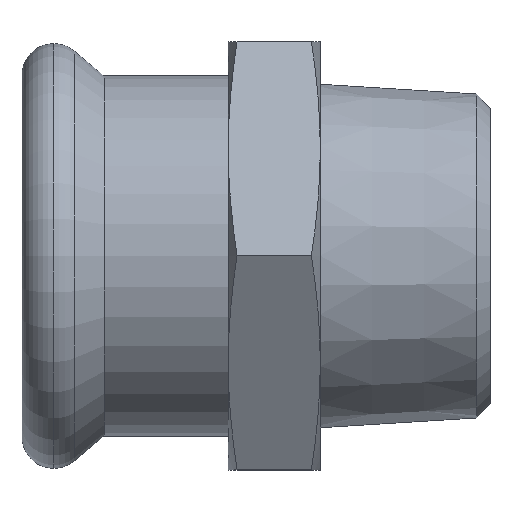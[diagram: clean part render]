
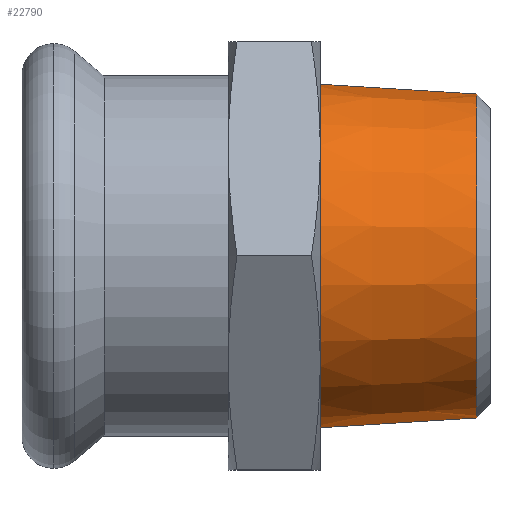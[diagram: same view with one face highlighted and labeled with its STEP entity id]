
A CAD part, top view. The second image highlights one B-rep face of the part: STEP entity #22790.
In plain terms, the highlighted conical face has half-angle 3.576 degrees and reference radius 21.65 mm.
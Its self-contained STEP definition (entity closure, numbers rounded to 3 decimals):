
#10=CARTESIAN_POINT('',(-75.571,-431.955,
0.));
#20=DIRECTION('',(-1.,0.,0.));
#30=DIRECTION('',(0.,-1.,0.));
#40=AXIS2_PLACEMENT_3D('',#10,#20,#30);
#50=CONICAL_SURFACE('',#40,21.65,0.062);
#60=CARTESIAN_POINT('',(-75.571,-410.305,
0.));
#70=DIRECTION('',(-0.998,0.062,
0.));
#80=VECTOR('',#70,1.);
#90=LINE('',#60,#80);
#100=CARTESIAN_POINT('',(-55.867,-411.537,
0.));
#110=VERTEX_POINT('',#100);
#120=CARTESIAN_POINT('',(-75.571,-410.305,
0.));
#130=VERTEX_POINT('',#120);
#140=EDGE_CURVE('',#110,#130,#90,.T.);
#160=CARTESIAN_POINT('',(-75.571,-431.955,
0.));
#170=DIRECTION('',(-1.,0.,0.));
#180=DIRECTION('',(0.,-1.,0.));
#190=AXIS2_PLACEMENT_3D('',#160,#170,#180);
#200=CIRCLE('',#190,21.65);
#210=CARTESIAN_POINT('',(-75.571,-453.605,
0.));
#220=VERTEX_POINT('',#210);
#250=CARTESIAN_POINT('',(-75.571,-453.605,
0.));
#260=DIRECTION('',(-0.998,-0.062,
0.));
#270=VECTOR('',#260,1.);
#280=LINE('',#250,#270);
#290=CARTESIAN_POINT('',(-55.867,-452.374,
0.));
#300=VERTEX_POINT('',#290);
#310=EDGE_CURVE('',#300,#220,#280,.T.);
#330=CARTESIAN_POINT('',(-55.867,-431.955,
0.));
#340=DIRECTION('',(-1.,0.,0.));
#350=DIRECTION('',(0.,-1.,0.));
#360=AXIS2_PLACEMENT_3D('',#330,#340,#350);
#370=CIRCLE('',#360,20.419);
#14030=EDGE_CURVE('',#220,#130,#200,.T.);
#22500=EDGE_CURVE('',#300,#110,#370,.T.);
#22730=ORIENTED_EDGE('',*,*,#140,.T.);
#22740=ORIENTED_EDGE('',*,*,#22500,.T.);
#22750=ORIENTED_EDGE('',*,*,#310,.F.);
#22760=ORIENTED_EDGE('',*,*,#14030,.F.);
#22770=EDGE_LOOP('',(#22760,#22750,#22740,#22730));
#22780=FACE_OUTER_BOUND('',#22770,.T.);
#22790=ADVANCED_FACE('',(#22780),#50,.T.);
